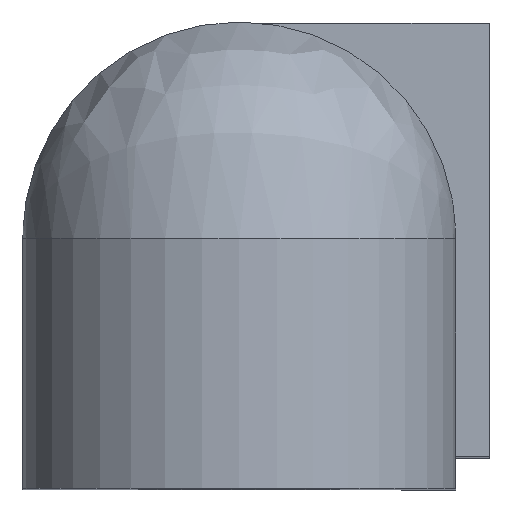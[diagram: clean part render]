
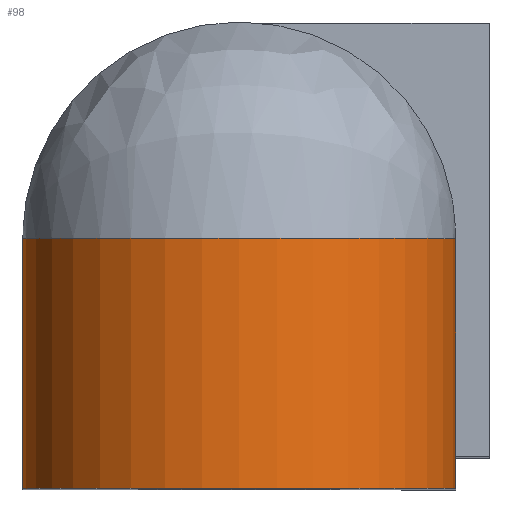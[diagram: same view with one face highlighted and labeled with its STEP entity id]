
A CAD part, top view. The second image highlights one B-rep face of the part: STEP entity #98.
In plain terms, the highlighted cylindrical face has radius 6.5 mm (diameter 13 mm), a partial arc.
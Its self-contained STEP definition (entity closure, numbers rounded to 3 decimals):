
#98 = ADVANCED_FACE ( 'NONE', ( #2873 ), #2860, .T. ) ;
#164 = AXIS2_PLACEMENT_3D ( 'NONE', #1246, #1248, #1249 ) ;
#166 = AXIS2_PLACEMENT_3D ( 'NONE', #1222, #1231, #1232 ) ;
#422 = AXIS2_PLACEMENT_3D ( 'NONE', #1950, #1963, #1966 ) ;
#1222 = CARTESIAN_POINT ( 'NONE',  ( 0., 24., 7.5 ) ) ;
#1226 = CARTESIAN_POINT ( 'NONE',  ( 6.5, 24., 14. ) ) ;
#1231 = DIRECTION ( 'NONE',  ( 0., 0., -1. ) ) ;
#1232 = DIRECTION ( 'NONE',  ( 1., 0., 0. ) ) ;
#1234 = DIRECTION ( 'NONE',  ( 0., 0., -1. ) ) ;
#1237 = CARTESIAN_POINT ( 'NONE',  ( -6.5, 24., 14. ) ) ;
#1238 = DIRECTION ( 'NONE',  ( 0., 0., 1. ) ) ;
#1246 = CARTESIAN_POINT ( 'NONE',  ( 0., 24., 0. ) ) ;
#1248 = DIRECTION ( 'NONE',  ( 0., 0., 1. ) ) ;
#1249 = DIRECTION ( 'NONE',  ( 1., 0., 0. ) ) ;
#1556 = CARTESIAN_POINT ( 'NONE',  ( 6.5, 24., 0. ) ) ;
#1559 = CARTESIAN_POINT ( 'NONE',  ( -6.5, 24., 0. ) ) ;
#1561 = CARTESIAN_POINT ( 'NONE',  ( -6.5, 24., 7.5 ) ) ;
#1563 = CARTESIAN_POINT ( 'NONE',  ( 6.5, 24., 7.5 ) ) ;
#1950 = CARTESIAN_POINT ( 'NONE',  ( 0., 24., 14. ) ) ;
#1963 = DIRECTION ( 'NONE',  ( 0., 0., 1. ) ) ;
#1966 = DIRECTION ( 'NONE',  ( 1., 0., 0. ) ) ;
#2155 = EDGE_CURVE ( 'NONE', #3724, #3726, #3960, .T. ) ;
#2156 = EDGE_CURVE ( 'NONE', #3726, #3718, #3961, .T. ) ;
#2158 = EDGE_CURVE ( 'NONE', #3722, #3724, #3957, .T. ) ;
#2163 = EDGE_CURVE ( 'NONE', #3718, #3722, #4120, .T. ) ;
#2533 = ORIENTED_EDGE ( 'NONE', *, *, #2155, .T. ) ;
#2589 = ORIENTED_EDGE ( 'NONE', *, *, #2163, .T. ) ;
#2590 = ORIENTED_EDGE ( 'NONE', *, *, #2158, .T. ) ;
#2591 = ORIENTED_EDGE ( 'NONE', *, *, #2156, .T. ) ;
#2716 = EDGE_LOOP ( 'NONE', ( #2533, #2591, #2589, #2590 ) ) ;
#2860 = CYLINDRICAL_SURFACE ( 'NONE', #422, 6.5 ) ;
#2873 = FACE_OUTER_BOUND ( 'NONE', #2716, .T. ) ;
#3718 = VERTEX_POINT ( 'NONE', #1556 ) ;
#3722 = VERTEX_POINT ( 'NONE', #1559 ) ;
#3724 = VERTEX_POINT ( 'NONE', #1561 ) ;
#3726 = VERTEX_POINT ( 'NONE', #1563 ) ;
#3956 = VECTOR ( 'NONE', #1238, 1000. ) ;
#3957 = LINE ( 'NONE', #1237, #3956 ) ;
#3960 = CIRCLE ( 'NONE', #166, 6.5 ) ;
#3961 = LINE ( 'NONE', #1226, #3971 ) ;
#3971 = VECTOR ( 'NONE', #1234, 1000. ) ;
#4120 = CIRCLE ( 'NONE', #164, 6.5 ) ;
